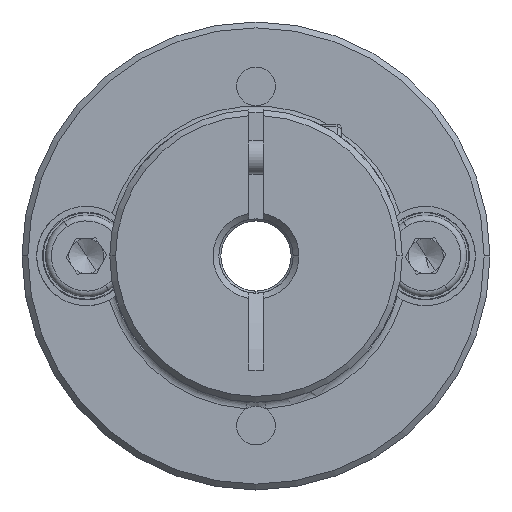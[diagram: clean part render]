
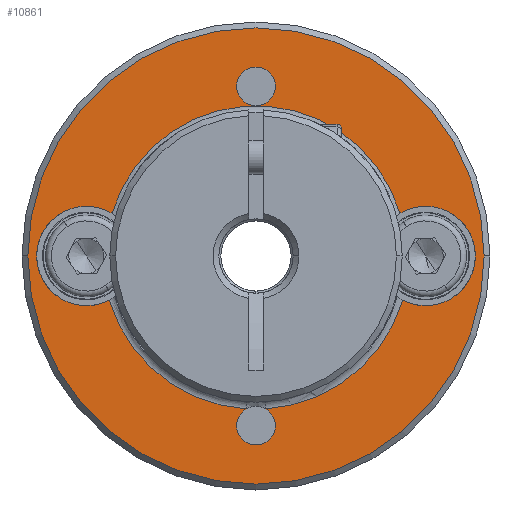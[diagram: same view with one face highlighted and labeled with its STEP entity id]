
A CAD part, front view. The second image highlights one B-rep face of the part: STEP entity #10861.
In plain terms, the highlighted planar face has unit normal (0, -1, 0).
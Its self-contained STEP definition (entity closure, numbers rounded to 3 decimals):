
#110 = CARTESIAN_POINT ( 'NONE',  ( -12.005, -13.63, 40. ) ) ;
#243 = CARTESIAN_POINT ( 'NONE',  ( 0.54, -13.63, 36.226 ) ) ;
#263 = DIRECTION ( 'NONE',  ( 0., 1., 0. ) ) ;
#501 = CIRCLE ( 'NONE', #696, 19.5 ) ;
#525 = CARTESIAN_POINT ( 'NONE',  ( -10.355, -13.63, 25.5 ) ) ;
#696 = AXIS2_PLACEMENT_3D ( 'NONE', #7074, #1241, #3225 ) ;
#703 = VERTEX_POINT ( 'NONE', #4195 ) ;
#914 = EDGE_CURVE ( 'NONE', #5359, #6448, #1915, .T. ) ;
#1241 = DIRECTION ( 'NONE',  ( 0., -1., 0. ) ) ;
#1374 = CARTESIAN_POINT ( 'NONE',  ( 2.495, -13.63, 40. ) ) ;
#1399 = VERTEX_POINT ( 'NONE', #1542 ) ;
#1405 = DIRECTION ( 'NONE',  ( 1., 0., 0. ) ) ;
#1482 = AXIS2_PLACEMENT_3D ( 'NONE', #8501, #2703, #7505 ) ;
#1494 = ORIENTED_EDGE ( 'NONE', *, *, #6178, .T. ) ;
#1519 = EDGE_CURVE ( 'NONE', #9729, #10558, #5019, .T. ) ;
#1539 = EDGE_CURVE ( 'NONE', #3009, #1399, #8704, .T. ) ;
#1542 = CARTESIAN_POINT ( 'NONE',  ( 6.745, -13.63, 40. ) ) ;
#1651 = CARTESIAN_POINT ( 'NONE',  ( -12.005, -13.63, 54.5 ) ) ;
#1659 = FACE_OUTER_BOUND ( 'NONE', #11178, .T. ) ;
#1749 = CARTESIAN_POINT ( 'NONE',  ( -26.505, -13.63, 40. ) ) ;
#1795 = ORIENTED_EDGE ( 'NONE', *, *, #1519, .T. ) ;
#1915 = CIRCLE ( 'NONE', #12217, 1.65 ) ;
#1962 = CARTESIAN_POINT ( 'NONE',  ( -12.005, -13.63, 40. ) ) ;
#2249 = ORIENTED_EDGE ( 'NONE', *, *, #11581, .T. ) ;
#2305 = DIRECTION ( 'NONE',  ( 1., 0., 0. ) ) ;
#2429 = ORIENTED_EDGE ( 'NONE', *, *, #8834, .T. ) ;
#2434 = CIRCLE ( 'NONE', #3370, 4.25 ) ;
#2592 = DIRECTION ( 'NONE',  ( 1., 0., 0. ) ) ;
#2703 = DIRECTION ( 'NONE',  ( 0., 1., 0. ) ) ;
#2747 = DIRECTION ( 'NONE',  ( 0., 1., 0. ) ) ;
#2954 = DIRECTION ( 'NONE',  ( 0., 1., 0. ) ) ;
#3009 = VERTEX_POINT ( 'NONE', #5246 ) ;
#3036 = EDGE_CURVE ( 'NONE', #10570, #703, #501, .T. ) ;
#3225 = DIRECTION ( 'NONE',  ( 1., 0., 0. ) ) ;
#3278 = ORIENTED_EDGE ( 'NONE', *, *, #914, .T. ) ;
#3299 = CARTESIAN_POINT ( 'NONE',  ( -12.005, -13.63, 25.5 ) ) ;
#3310 = ORIENTED_EDGE ( 'NONE', *, *, #10217, .T. ) ;
#3370 = AXIS2_PLACEMENT_3D ( 'NONE', #1374, #6304, #4278 ) ;
#3390 = EDGE_LOOP ( 'NONE', ( #7072, #2249, #3310, #8433, #7728, #12568, #12337, #2429, #1494, #1795 ) ) ;
#3442 = CIRCLE ( 'NONE', #12406, 19.5 ) ;
#3569 = PLANE ( 'NONE',  #10825 ) ;
#3850 = CARTESIAN_POINT ( 'NONE',  ( 7.495, -13.63, 40. ) ) ;
#4195 = CARTESIAN_POINT ( 'NONE',  ( -31.505, -13.63, 40. ) ) ;
#4278 = DIRECTION ( 'NONE',  ( 1., 0., 0. ) ) ;
#4456 = DIRECTION ( 'NONE',  ( 0., 1., 0. ) ) ;
#4589 = DIRECTION ( 'NONE',  ( 0., -1., 0. ) ) ;
#4617 = CARTESIAN_POINT ( 'NONE',  ( -11.175, -13.63, 26.926 ) ) ;
#4748 = DIRECTION ( 'NONE',  ( 1., 0., 0. ) ) ;
#4785 = EDGE_CURVE ( 'NONE', #5971, #4823, #7083, .T. ) ;
#4823 = VERTEX_POINT ( 'NONE', #525 ) ;
#4858 = AXIS2_PLACEMENT_3D ( 'NONE', #110, #10467, #2592 ) ;
#5019 = CIRCLE ( 'NONE', #10904, 13.1 ) ;
#5048 = CARTESIAN_POINT ( 'NONE',  ( -12.005, -13.63, 25.5 ) ) ;
#5130 = EDGE_CURVE ( 'NONE', #5233, #5971, #12302, .T. ) ;
#5233 = VERTEX_POINT ( 'NONE', #243 ) ;
#5246 = CARTESIAN_POINT ( 'NONE',  ( 0.298, -13.63, 43.638 ) ) ;
#5256 = AXIS2_PLACEMENT_3D ( 'NONE', #5999, #9987, #10964 ) ;
#5285 = DIRECTION ( 'NONE',  ( 1., 0., 0. ) ) ;
#5359 = VERTEX_POINT ( 'NONE', #5387 ) ;
#5387 = CARTESIAN_POINT ( 'NONE',  ( -10.355, -13.63, 54.5 ) ) ;
#5940 = CARTESIAN_POINT ( 'NONE',  ( -24.55, -13.63, 36.226 ) ) ;
#5971 = VERTEX_POINT ( 'NONE', #4617 ) ;
#5999 = CARTESIAN_POINT ( 'NONE',  ( -26.505, -13.63, 40. ) ) ;
#6006 = DIRECTION ( 'NONE',  ( 0., 1., 0. ) ) ;
#6033 = DIRECTION ( 'NONE',  ( 1., 0., 0. ) ) ;
#6052 = AXIS2_PLACEMENT_3D ( 'NONE', #10716, #6006, #10762 ) ;
#6167 = CIRCLE ( 'NONE', #12369, 1.65 ) ;
#6178 = EDGE_CURVE ( 'NONE', #9468, #9729, #12728, .T. ) ;
#6202 = CARTESIAN_POINT ( 'NONE',  ( -12.005, -13.63, 40. ) ) ;
#6304 = DIRECTION ( 'NONE',  ( 0., 1., 0. ) ) ;
#6448 = VERTEX_POINT ( 'NONE', #9193 ) ;
#6606 = ORIENTED_EDGE ( 'NONE', *, *, #12325, .T. ) ;
#6834 = DIRECTION ( 'NONE',  ( 1., 0., 0. ) ) ;
#6867 = VERTEX_POINT ( 'NONE', #7204 ) ;
#6995 = EDGE_CURVE ( 'NONE', #6448, #5359, #11652, .T. ) ;
#7072 = ORIENTED_EDGE ( 'NONE', *, *, #11754, .T. ) ;
#7074 = CARTESIAN_POINT ( 'NONE',  ( -12.005, -13.63, 40. ) ) ;
#7083 = CIRCLE ( 'NONE', #9870, 1.65 ) ;
#7204 = CARTESIAN_POINT ( 'NONE',  ( -30.755, -13.63, 40. ) ) ;
#7328 = CIRCLE ( 'NONE', #5256, 4.25 ) ;
#7505 = DIRECTION ( 'NONE',  ( 1., 0., 0. ) ) ;
#7728 = ORIENTED_EDGE ( 'NONE', *, *, #8851, .T. ) ;
#7855 = AXIS2_PLACEMENT_3D ( 'NONE', #6202, #263, #1405 ) ;
#8066 = AXIS2_PLACEMENT_3D ( 'NONE', #5048, #2954, #6834 ) ;
#8120 = CARTESIAN_POINT ( 'NONE',  ( -12.834, -13.63, 26.926 ) ) ;
#8433 = ORIENTED_EDGE ( 'NONE', *, *, #1539, .T. ) ;
#8501 = CARTESIAN_POINT ( 'NONE',  ( -12.005, -13.63, 54.5 ) ) ;
#8704 = CIRCLE ( 'NONE', #6052, 4.25 ) ;
#8708 = ORIENTED_EDGE ( 'NONE', *, *, #3036, .T. ) ;
#8834 = EDGE_CURVE ( 'NONE', #4823, #9468, #6167, .T. ) ;
#8851 = EDGE_CURVE ( 'NONE', #1399, #5233, #2434, .T. ) ;
#8886 = CIRCLE ( 'NONE', #7855, 12.829 ) ;
#9147 = DIRECTION ( 'NONE',  ( 0., -1., 0. ) ) ;
#9193 = CARTESIAN_POINT ( 'NONE',  ( -13.655, -13.63, 54.5 ) ) ;
#9345 = FACE_BOUND ( 'NONE', #10258, .T. ) ;
#9468 = VERTEX_POINT ( 'NONE', #12379 ) ;
#9469 = DIRECTION ( 'NONE',  ( 0., 1., 0. ) ) ;
#9516 = DIRECTION ( 'NONE',  ( 1., 0., 0. ) ) ;
#9646 = FACE_BOUND ( 'NONE', #3390, .T. ) ;
#9729 = VERTEX_POINT ( 'NONE', #8120 ) ;
#9870 = AXIS2_PLACEMENT_3D ( 'NONE', #12146, #11281, #5285 ) ;
#9987 = DIRECTION ( 'NONE',  ( 0., 1., 0. ) ) ;
#10101 = CIRCLE ( 'NONE', #10266, 4.25 ) ;
#10147 = DIRECTION ( 'NONE',  ( 1., 0., 0. ) ) ;
#10217 = EDGE_CURVE ( 'NONE', #11342, #3009, #8886, .T. ) ;
#10258 = EDGE_LOOP ( 'NONE', ( #12573, #3278 ) ) ;
#10266 = AXIS2_PLACEMENT_3D ( 'NONE', #1749, #2747, #4748 ) ;
#10390 = CARTESIAN_POINT ( 'NONE',  ( -12.005, -13.63, 40. ) ) ;
#10467 = DIRECTION ( 'NONE',  ( 0., 1., 0. ) ) ;
#10558 = VERTEX_POINT ( 'NONE', #5940 ) ;
#10570 = VERTEX_POINT ( 'NONE', #3850 ) ;
#10716 = CARTESIAN_POINT ( 'NONE',  ( 2.495, -13.63, 40. ) ) ;
#10762 = DIRECTION ( 'NONE',  ( 1., 0., 0. ) ) ;
#10825 = AXIS2_PLACEMENT_3D ( 'NONE', #10390, #4589, #12453 ) ;
#10861 = ADVANCED_FACE ( 'NONE', ( #1659, #9646, #9345 ), #3569, .T. ) ;
#10904 = AXIS2_PLACEMENT_3D ( 'NONE', #1962, #11090, #6033 ) ;
#10964 = DIRECTION ( 'NONE',  ( 1., 0., 0. ) ) ;
#11090 = DIRECTION ( 'NONE',  ( 0., 1., 0. ) ) ;
#11178 = EDGE_LOOP ( 'NONE', ( #6606, #8708 ) ) ;
#11219 = CARTESIAN_POINT ( 'NONE',  ( -12.005, -13.63, 40. ) ) ;
#11281 = DIRECTION ( 'NONE',  ( 0., 1., 0. ) ) ;
#11342 = VERTEX_POINT ( 'NONE', #12346 ) ;
#11581 = EDGE_CURVE ( 'NONE', #6867, #11342, #10101, .T. ) ;
#11652 = CIRCLE ( 'NONE', #1482, 1.65 ) ;
#11754 = EDGE_CURVE ( 'NONE', #10558, #6867, #7328, .T. ) ;
#12146 = CARTESIAN_POINT ( 'NONE',  ( -12.005, -13.63, 25.5 ) ) ;
#12217 = AXIS2_PLACEMENT_3D ( 'NONE', #1651, #9469, #9516 ) ;
#12302 = CIRCLE ( 'NONE', #4858, 13.1 ) ;
#12325 = EDGE_CURVE ( 'NONE', #703, #10570, #3442, .T. ) ;
#12337 = ORIENTED_EDGE ( 'NONE', *, *, #4785, .T. ) ;
#12346 = CARTESIAN_POINT ( 'NONE',  ( -24.307, -13.63, 43.638 ) ) ;
#12369 = AXIS2_PLACEMENT_3D ( 'NONE', #3299, #4456, #2305 ) ;
#12379 = CARTESIAN_POINT ( 'NONE',  ( -13.655, -13.63, 25.5 ) ) ;
#12406 = AXIS2_PLACEMENT_3D ( 'NONE', #11219, #9147, #10147 ) ;
#12453 = DIRECTION ( 'NONE',  ( 1., 0., 0. ) ) ;
#12568 = ORIENTED_EDGE ( 'NONE', *, *, #5130, .T. ) ;
#12573 = ORIENTED_EDGE ( 'NONE', *, *, #6995, .T. ) ;
#12728 = CIRCLE ( 'NONE', #8066, 1.65 ) ;
